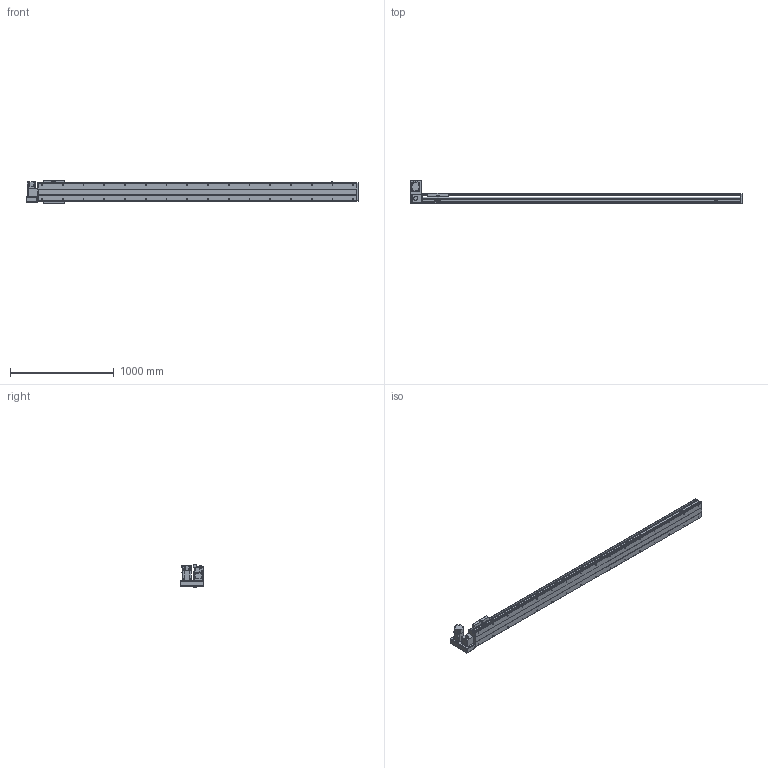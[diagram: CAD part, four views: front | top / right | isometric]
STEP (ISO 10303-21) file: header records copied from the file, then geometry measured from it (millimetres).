
FILE_DESCRIPTION(/* description */ ('STEP AP214'),/* implementation_level */ '2;1');
FILE_NAME(/* name */ 'PBS200-P40-S2700-LU-T75-C1-N(0)',/* time_stamp */ '2022-06-11T09:04:41+02:00',/* author */ ('License CC BY-ND 4.0'),/* organization */ ('CADENAS'),/* preprocessor_version */ 'ST-DEVELOPER v18.102',/* originating_system */ 'PARTsolutions',/* authorisation */ ' ');
FILE_SCHEMA (('AUTOMOTIVE_DESIGN {1 0 10303 214 3 1 1}'));
Length unit declared in the file: millimetre
Products named in the file (7): PBS200-P40-S2700-LU-T75-C1-N(0); PBS200_sensor; PBS200_plant; PBS200_sliser; T75-p1; PBS200T-LU_motors; PBS200-S2700()_body
Assembly tree (8 placements, depth 2):
  PBS200-P40-S2700-LU-T75-C1-N(0)
    PBS200_sensor  x3
    PBS200_plant
    PBS200_sliser
    T75-p1
    PBS200T-LU_motors
    PBS200-S2700()_body
Bounding box: 3200 x 231 x 221 mm (x, y, z)
Volume: 21853197.8 mm3; surface area: 3493028 mm2
Topology: 8 solids, 8 shells, 968 faces, 2454 edges, 1596 vertices
Faces by surface type: plane 590, cylinder 314, cone 64
Full cylindrical faces by diameter (mm): 2.459 x6, 3.242 x4, 4.5 x6, 4.917 x4, 5 x6, 6 x7, 6.6 x8, 6.647 x36, 8 x6, 10 x4, 12 x8, 38 x2, 40 x1, 70 x1
Entity records: 25541 total; most frequent: DIRECTION 4519, CARTESIAN_POINT 4336, ORIENTED_EDGE 4078, EDGE_CURVE 2039, AXIS2_PLACEMENT_3D 1603, VERTEX_POINT 1420, LINE 1313, VECTOR 1313
